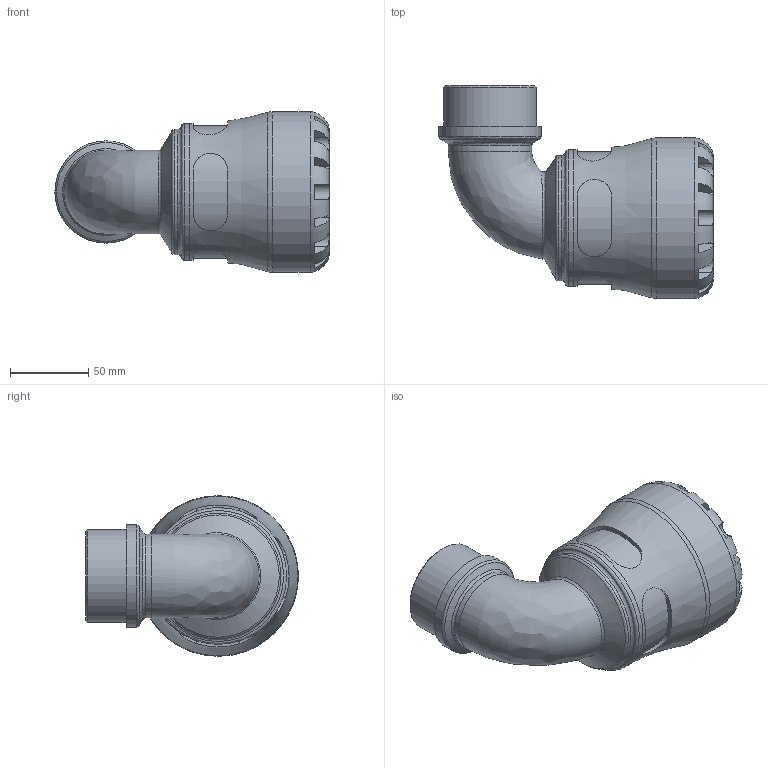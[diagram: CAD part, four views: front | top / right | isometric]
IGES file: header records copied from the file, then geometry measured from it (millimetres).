
Global section: file name: 107700063020_197700063020.ipt; native system: Autodesk Inventor 2015; preprocessor: unknown; author: KIM; date: 20180513.110424; units: millimetre
Bounding box: 175.79 x 136.5 x 103 mm (x, y, z)
Volume: 535552.2 mm3; surface area: 96830.5 mm2
Topology: 1 solids, 1 shells, 112 faces, 288 edges, 183 vertices
Faces by surface type: plane 60, revolution 28, cylinder 18, bspline 4, cone 2
Full cylindrical faces by diameter (mm): 53.653 x1, 59.614 x1, 65.575 x1, 80.34 x1, 87.55 x1, 103 x1
